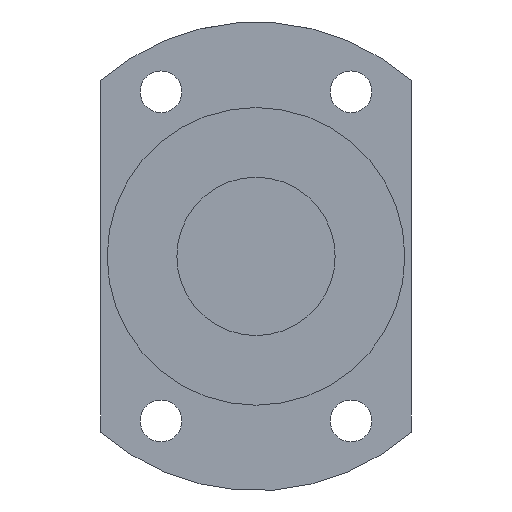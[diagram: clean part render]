
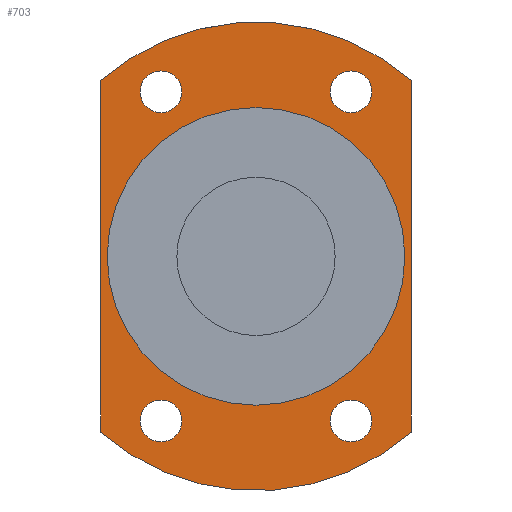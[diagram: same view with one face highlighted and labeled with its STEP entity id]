
A CAD part, left-side view. The second image highlights one B-rep face of the part: STEP entity #703.
In plain terms, the highlighted planar face has unit normal (-1, 0, 0).
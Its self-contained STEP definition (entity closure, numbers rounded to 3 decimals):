
#396=CARTESIAN_POINT('',(15.0,-15.,-22.681));
#397=VERTEX_POINT('',#396);
#398=CARTESIAN_POINT('',(15.0,-15.,-25.981));
#399=DIRECTION('',(1.0,0.0,0.0));
#400=DIRECTION('',(0.0,0.0,1.0));
#401=AXIS2_PLACEMENT_3D('',#398,#399,#400);
#402=CIRCLE('',#401,3.3);
#403=EDGE_CURVE('',#397,#397,#402,.T.);
#445=CARTESIAN_POINT('',(15.0,15.,-22.681));
#446=VERTEX_POINT('',#445);
#447=CARTESIAN_POINT('',(15.0,15.,-25.981));
#448=DIRECTION('',(1.0,0.0,0.0));
#449=DIRECTION('',(0.0,0.0,1.0));
#450=AXIS2_PLACEMENT_3D('',#447,#448,#449);
#451=CIRCLE('',#450,3.3);
#452=EDGE_CURVE('',#446,#446,#451,.T.);
#494=CARTESIAN_POINT('',(15.,15.0,29.281));
#495=VERTEX_POINT('',#494);
#496=CARTESIAN_POINT('',(15.0,15.0,25.981));
#497=DIRECTION('',(1.0,0.0,0.0));
#498=DIRECTION('',(0.0,0.0,1.0));
#499=AXIS2_PLACEMENT_3D('',#496,#497,#498);
#500=CIRCLE('',#499,3.3);
#501=EDGE_CURVE('',#495,#495,#500,.T.);
#543=CARTESIAN_POINT('',(15.,-15.,29.281));
#544=VERTEX_POINT('',#543);
#545=CARTESIAN_POINT('',(15.0,-15.,25.981));
#546=DIRECTION('',(1.0,0.0,0.0));
#547=DIRECTION('',(0.0,0.0,1.0));
#548=AXIS2_PLACEMENT_3D('',#545,#546,#547);
#549=CIRCLE('',#548,3.3);
#550=EDGE_CURVE('',#544,#544,#549,.T.);
#570=CARTESIAN_POINT('',(15.,-24.5,27.726));
#571=VERTEX_POINT('',#570);
#578=CARTESIAN_POINT('',(15.,-24.5,-27.726));
#579=VERTEX_POINT('',#578);
#580=CARTESIAN_POINT('',(15.,-24.5,-27.726));
#581=DIRECTION('',(0.0,0.0,1.0));
#582=VECTOR('',#581,55.453);
#583=LINE('',#580,#582);
#584=EDGE_CURVE('',#579,#571,#583,.T.);
#610=CARTESIAN_POINT('',(15.,24.5,-27.726));
#611=VERTEX_POINT('',#610);
#618=CARTESIAN_POINT('',(15.,24.5,27.726));
#619=VERTEX_POINT('',#618);
#620=CARTESIAN_POINT('',(15.,24.5,27.726));
#621=DIRECTION('',(0.0,0.0,-1.0));
#622=VECTOR('',#621,55.453);
#623=LINE('',#620,#622);
#624=EDGE_CURVE('',#619,#611,#623,.T.);
#649=CARTESIAN_POINT('',(15.,0.0,0.));
#650=DIRECTION('',(-1.0,0.0,0.0));
#651=DIRECTION('',(0.0,0.0,1.0));
#652=AXIS2_PLACEMENT_3D('',#649,#650,#651);
#653=CIRCLE('',#652,37.0);
#654=EDGE_CURVE('',#571,#619,#653,.T.);
#663=CARTESIAN_POINT('',(15.,0.0,30.25));
#664=DIRECTION('',(-1.0,0.0,0.0));
#665=DIRECTION('',(0.0,0.0,1.0));
#666=AXIS2_PLACEMENT_3D('',#663,#664,#665);
#667=PLANE('',#666);
#668=ORIENTED_EDGE('',*,*,#584,.T.);
#669=ORIENTED_EDGE('',*,*,#654,.T.);
#670=ORIENTED_EDGE('',*,*,#624,.T.);
#671=CARTESIAN_POINT('',(15.,0.0,0.));
#672=DIRECTION('',(-1.0,0.0,0.0));
#673=DIRECTION('',(0.0,0.0,1.0));
#674=AXIS2_PLACEMENT_3D('',#671,#672,#673);
#675=CIRCLE('',#674,37.0);
#676=EDGE_CURVE('',#611,#579,#675,.T.);
#677=ORIENTED_EDGE('',*,*,#676,.T.);
#678=EDGE_LOOP('',(#668,#669,#670,#677));
#679=FACE_OUTER_BOUND('',#678,.T.);
#680=ORIENTED_EDGE('',*,*,#403,.T.);
#681=EDGE_LOOP('',(#680));
#682=FACE_BOUND('',#681,.T.);
#683=ORIENTED_EDGE('',*,*,#452,.T.);
#684=EDGE_LOOP('',(#683));
#685=FACE_BOUND('',#684,.T.);
#686=ORIENTED_EDGE('',*,*,#501,.T.);
#687=EDGE_LOOP('',(#686));
#688=FACE_BOUND('',#687,.T.);
#689=ORIENTED_EDGE('',*,*,#550,.T.);
#690=EDGE_LOOP('',(#689));
#691=FACE_BOUND('',#690,.T.);
#692=CARTESIAN_POINT('',(15.,0.0,23.5));
#693=VERTEX_POINT('',#692);
#694=CARTESIAN_POINT('',(15.,0.0,0.));
#695=DIRECTION('',(-1.0,0.0,0.0));
#696=DIRECTION('',(0.0,0.0,1.0));
#697=AXIS2_PLACEMENT_3D('',#694,#695,#696);
#698=CIRCLE('',#697,23.5);
#699=EDGE_CURVE('',#693,#693,#698,.T.);
#700=ORIENTED_EDGE('',*,*,#699,.F.);
#701=EDGE_LOOP('',(#700));
#702=FACE_BOUND('',#701,.T.);
#703=ADVANCED_FACE('',(#679,#682,#685,#688,#691,#702),#667,.T.);
